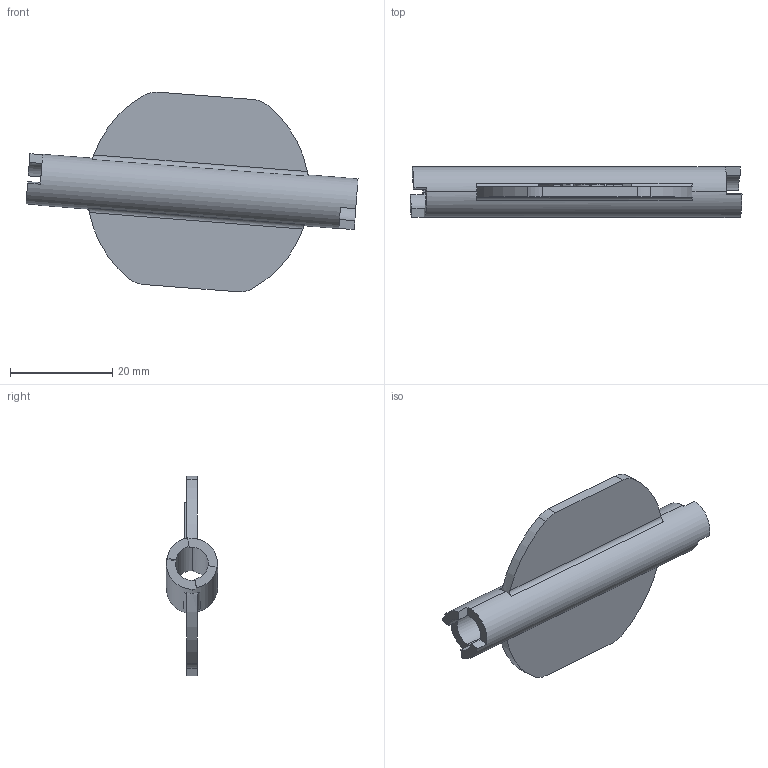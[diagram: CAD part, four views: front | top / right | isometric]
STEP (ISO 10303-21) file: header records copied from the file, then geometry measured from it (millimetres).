
FILE_DESCRIPTION((''),'2;1');
FILE_NAME('0000237120_PRT','2025-11-12T18:36:07',('Wyndorps'),(''),'CREO PARAMETRIC BY PTC INC, 2025010','CREO PARAMETRIC BY PTC INC, 2025010','');
FILE_SCHEMA(('CONFIG_CONTROL_DESIGN'));
Length unit declared in the file: millimetre
Products named in the file (1): 0000237120_PRT
Bounding box: 65.06 x 10 x 39.14 mm (x, y, z)
Volume: 4791.6 mm3; surface area: 5353.2 mm2
Topology: 1 solids, 1 shells, 76 faces, 210 edges, 140 vertices
Faces by surface type: plane 52, cylinder 16, extrusion 8
Entity records: 2610 total; most frequent: CARTESIAN_POINT 644, ORIENTED_EDGE 420, DIRECTION 362, EDGE_CURVE 210, VECTOR 146, VERTEX_POINT 140, LINE 138, AXIS2_PLACEMENT_3D 108
